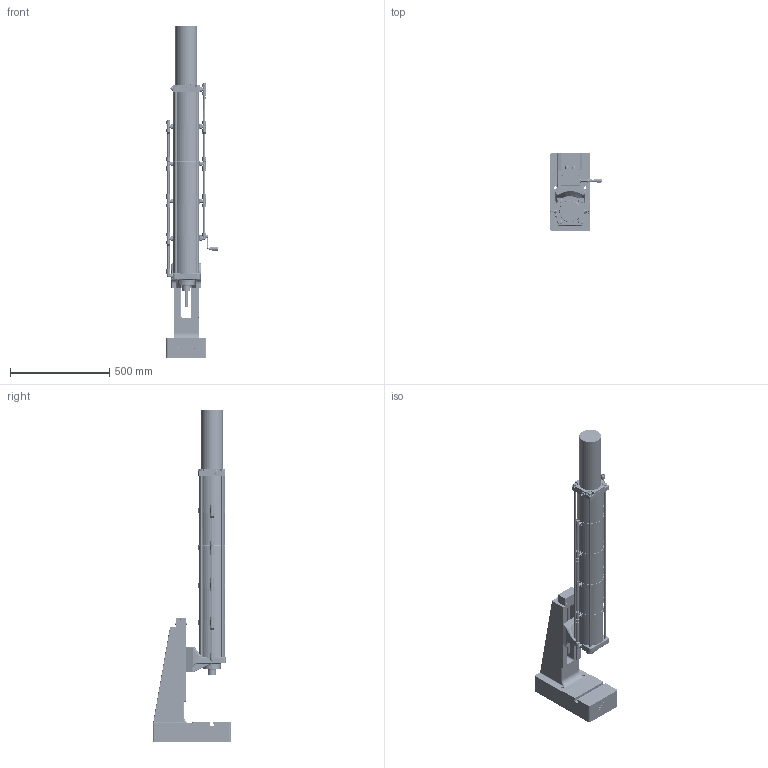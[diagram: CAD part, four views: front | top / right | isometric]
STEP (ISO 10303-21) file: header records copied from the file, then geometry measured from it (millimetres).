
FILE_DESCRIPTION(/* description */ ('Bausatz Ständer T4N HV-OST'),/* implementation_level */ '2;1');
FILE_NAME(/* name */ 'B:\02_CAD_oeffentlich\CAD_3D_oeffentlich_step\Druckluftpresse\DRP_3400_120_130.stp',/* time_stamp */ '2017-08-29T07:28:14+02:00',/* author */ ('Finsterle'),/* organization */ (''),/* preprocessor_version */ 'ST-DEVELOPER v16.1',/* originating_system */ 'Autodesk Inventor 2016',/* authorisation */ '');
FILE_SCHEMA (('AUTOMOTIVE_DESIGN { 1 0 10303 214 3 1 1 }'));
Products named in the file (5): ENG-000753-1_V; ENG-001185_V; HBF-000760; ENG-000755; HBF-001084_V
Assembly tree (5 placements, depth 2):
  HBF-001084_V
    ENG-000753-1_V
    ENG-001185_V
    HBF-000760
    ENG-000755  x2
Bounding box: 259.79 x 393.8 x 1672.07 mm (x, y, z)
Volume: 15618452.8 mm3; surface area: 2566235.8 mm2
Topology: 6 solids, 36 shells, 8131 faces, 21577 edges, 14049 vertices
Faces by surface type: plane 4782, bspline 2122, cylinder 677, cone 283, torus 192, sphere 75
Full cylindrical faces by diameter (mm): 1 x1, 2 x1, 2.4 x3, 2.459 x2, 3 x6, 3.242 x7, 3.5 x2, 3.65 x4, 4 x5, 4.134 x1, 4.2 x2, 4.5 x4, 4.917 x6, 5 x3, 6.2 x4, 6.5 x2, 6.647 x1, 8 x5, 8.4 x1, 8.5 x2, 9 x8, 10 x3, 10.02 x1, 10.5 x4, 11.5 x12, 11.8 x2, 12 x36, 12.5 x4, 13 x28, 13.5 x4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
Entity records: 271064 total; most frequent: CARTESIAN_POINT 79299, ORIENTED_EDGE 41162, DIRECTION 29977, EDGE_CURVE 20548, LINE 14037, VECTOR 14037, VERTEX_POINT 13851, EDGE_LOOP 9607
